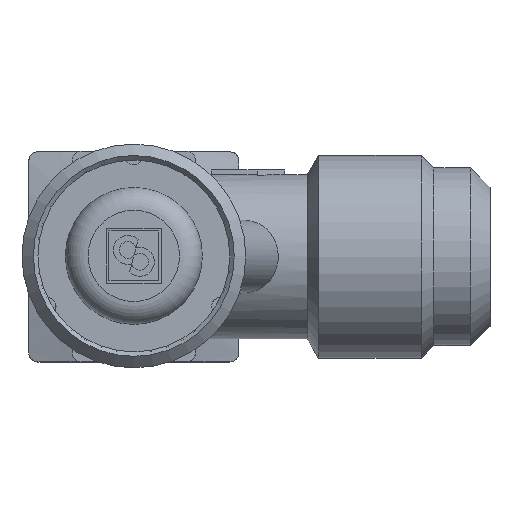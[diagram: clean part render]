
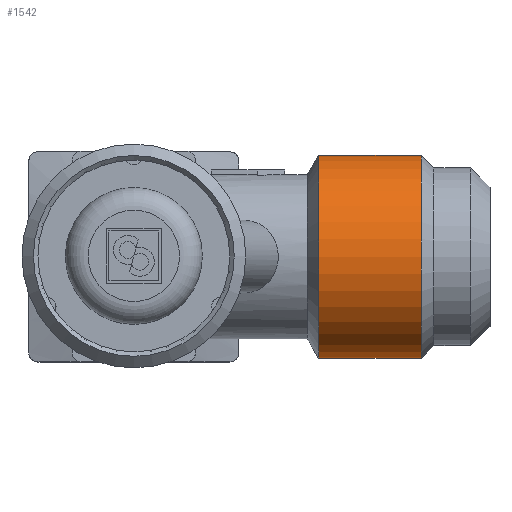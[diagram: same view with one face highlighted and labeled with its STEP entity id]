
A CAD part, top view. The second image highlights one B-rep face of the part: STEP entity #1542.
In plain terms, the highlighted cylindrical face has radius 11.113 mm (diameter 22.225 mm), a full revolution.
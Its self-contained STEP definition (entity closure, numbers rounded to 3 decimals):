
#480=CYLINDRICAL_SURFACE('',#15510,11.113);
#1542=ADVANCED_FACE('',(#2284,#2285),#480,.T.);
#2284=FACE_BOUND('',#6362,.T.);
#2285=FACE_BOUND('',#6363,.T.);
#6362=EDGE_LOOP('',(#10145));
#6363=EDGE_LOOP('',(#10146));
#10145=ORIENTED_EDGE('',*,*,#12118,.F.);
#10146=ORIENTED_EDGE('',*,*,#13897,.F.);
#10730=VERTEX_POINT('',#19627);
#11922=VERTEX_POINT('',#26588);
#12118=EDGE_CURVE('',#10730,#10730,#14170,.T.);
#13897=EDGE_CURVE('',#11922,#11922,#14430,.T.);
#14170=CIRCLE('',#14571,11.113);
#14430=CIRCLE('',#15509,11.113);
#14571=AXIS2_PLACEMENT_3D('',#19626,#15830,#15831);
#15509=AXIS2_PLACEMENT_3D('',#26587,#18904,#18905);
#15510=AXIS2_PLACEMENT_3D('',#26589,#18906,#18907);
#15830=DIRECTION('',(-1.,0.,0.));
#15831=DIRECTION('',(0.,0.,-1.));
#18904=DIRECTION('',(1.,0.,0.));
#18905=DIRECTION('',(0.,0.,-1.));
#18906=DIRECTION('',(1.,0.,0.));
#18907=DIRECTION('',(0.,0.,-1.));
#19626=CARTESIAN_POINT('',(20.22,0.,38.));
#19627=CARTESIAN_POINT('',(20.22,0.,26.888));
#26587=CARTESIAN_POINT('',(31.488,0.,38.));
#26588=CARTESIAN_POINT('',(31.488,0.,26.888));
#26589=CARTESIAN_POINT('',(17.,0.,38.));
